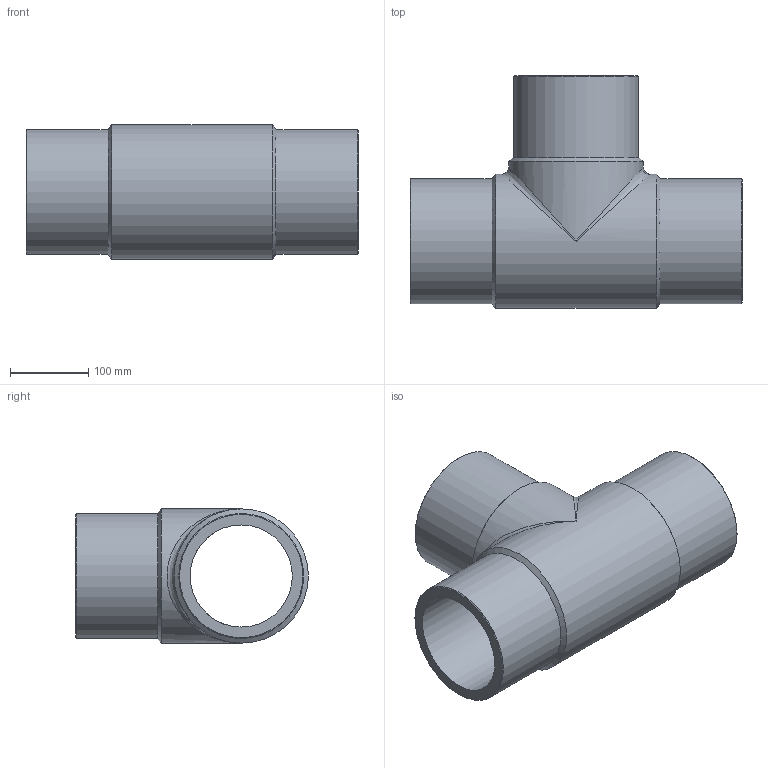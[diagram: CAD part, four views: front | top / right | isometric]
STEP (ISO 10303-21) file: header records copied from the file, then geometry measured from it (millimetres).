
FILE_DESCRIPTION(/* description */ ('Unknown'),/* implementation_level */ '2;1');
FILE_NAME(/* name */ 'TP160C',/* time_stamp */ '2021-08-10T17:16:55+02:00',/* author */ ('Unknown'),/* organization */ ('Unknown'),/* preprocessor_version */ 'ST-DEVELOPER v16.7',/* originating_system */ 'Solid Edge',/* authorisation */ 'Unknown');
FILE_SCHEMA (('AUTOMOTIVE_DESIGN {1 0 10303 214 3 1 1}'));
Length unit declared in the file: millimetre
Products named in the file (1): TP160C
Bounding box: 425 x 298 x 172 mm (x, y, z)
Volume: 4287187.2 mm3; surface area: 523474.6 mm2
Topology: 1 solids, 1 shells, 18 faces, 44 edges, 23 vertices
Faces by surface type: cylinder 7, cone 6, plane 3, bspline 2
Full cylindrical faces by diameter (mm): 130.8 x2, 160 x3, 172 x2
Entity records: 528 total; most frequent: CARTESIAN_POINT 171, DIRECTION 76, ORIENTED_EDGE 42, AXIS2_PLACEMENT_3D 38, EDGE_LOOP 36, FACE_BOUND 36, EDGE_CURVE 21, VERTEX_POINT 19
